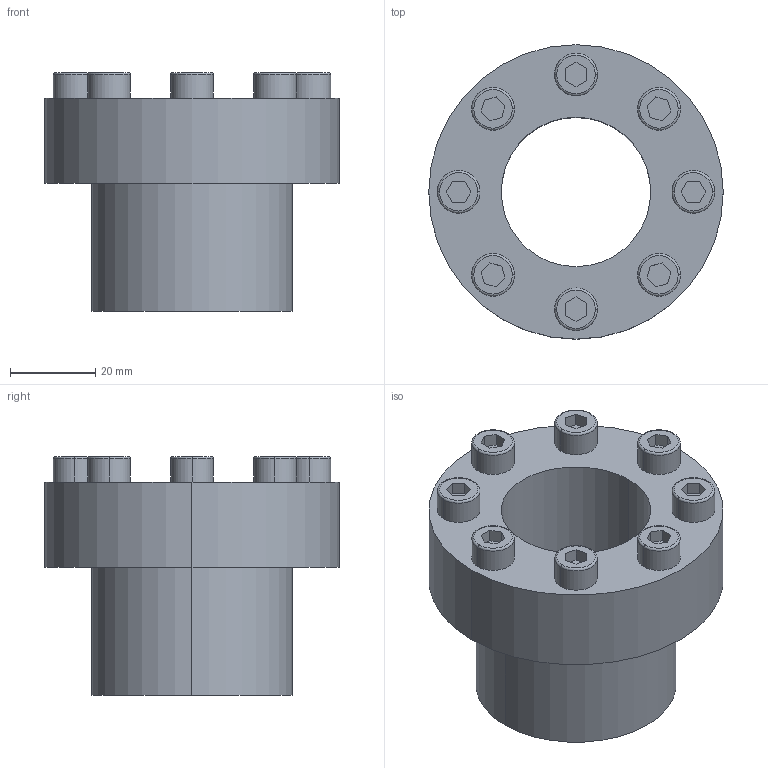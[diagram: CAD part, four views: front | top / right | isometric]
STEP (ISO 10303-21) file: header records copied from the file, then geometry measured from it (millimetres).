
FILE_DESCRIPTION (( 'STEP AP203' ), '1' );
FILE_NAME ('PL-C 35-47.STEP', '2021-10-22T08:39:54', ( '' ), ( '' ), 'SwSTEP 2.0', 'SolidWorks 2018', '' );
FILE_SCHEMA (( 'CONFIG_CONTROL_DESIGN' ));
Length unit declared in the file: millimetre
Products named in the file (1): PL-C 35-47
Bounding box: 69 x 69 x 56 mm (x, y, z)
Volume: 81965.4 mm3; surface area: 21686 mm2
Topology: 1 solids, 1 shells, 105 faces, 242 edges, 156 vertices
Faces by surface type: plane 67, cylinder 22, torus 16
Entity records: 3045 total; most frequent: DIRECTION 530, CARTESIAN_POINT 504, ORIENTED_EDGE 484, EDGE_CURVE 242, AXIS2_PLACEMENT_3D 182, LINE 166, VECTOR 166, VERTEX_POINT 156
